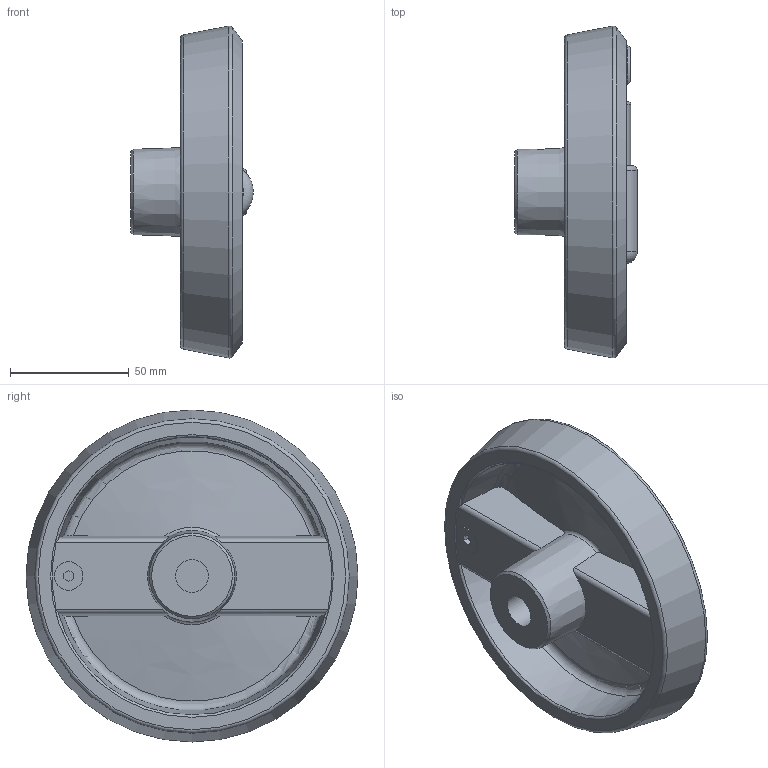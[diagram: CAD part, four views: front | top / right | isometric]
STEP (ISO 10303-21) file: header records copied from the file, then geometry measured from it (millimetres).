
FILE_DESCRIPTION( ( 'STEP AP203' ), '1' );
FILE_NAME( 'C:/Temp/Ganter_Step_05_03_2020/data/1_3/gn_923_7/gn_923_7_b/Handwheel with retractable handle GN 923.7-140-B14-R-SW (unactivated).stp', '2020-03-05T10:40:00', ( 'License CC BY-ND 4.0' ), ( 'CADENAS' ), ' ', 'PARTsolutions', ' ' );
FILE_SCHEMA( ( 'CONFIG_CONTROL_DESIGN' ) );
Length unit declared in the file: millimetre
Products named in the file (3): Handwheel with retractable handle GN 923.7-140-B14-R-SW (unactivated); _Umleggriff-Handrad GN 923.7-140-B14-R-SW-1; _Umleggriff-Handrad GN 923.7-140-B14-R-SW (0)-2
Assembly tree (2 placements, depth 2):
  Handwheel with retractable handle GN 923.7-140-B14-R-SW (unactivated)
    _Umleggriff-Handrad GN 923.7-140-B14-R-SW-1
    _Umleggriff-Handrad GN 923.7-140-B14-R-SW (0)-2
Bounding box: 51.7 x 140 x 140 mm (x, y, z)
Volume: 216758 mm3; surface area: 65311.2 mm2
Topology: 2 solids, 2 shells, 113 faces, 275 edges, 174 vertices
Faces by surface type: plane 47, cylinder 28, torus 15, cone 14, bspline 7, sphere 2
Full cylindrical faces by diameter (mm): 4 x2, 5 x1, 8 x1, 12 x1, 14 x1, 15 x1, 18.5 x1, 20 x1, 23 x2, 24 x1
Entity records: 3742 total; most frequent: CARTESIAN_POINT 1188, DIRECTION 503, ORIENTED_EDGE 480, EDGE_CURVE 240, AXIS2_PLACEMENT_3D 215, VERTEX_POINT 168, EDGE_LOOP 151, FACE_OUTER_BOUND 132
